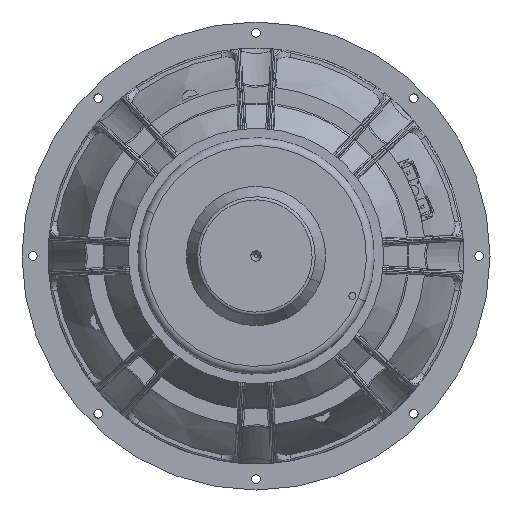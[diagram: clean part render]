
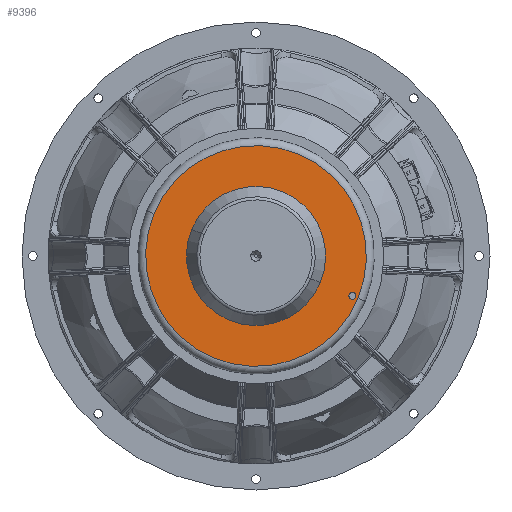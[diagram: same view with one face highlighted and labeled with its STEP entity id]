
A CAD part, front view. The second image highlights one B-rep face of the part: STEP entity #9396.
In plain terms, the highlighted planar face has unit normal (0, -1, 0).
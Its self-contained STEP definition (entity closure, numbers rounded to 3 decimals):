
#14 = PLANE ( 'NONE',  #47941 ) ;
#260 = DIRECTION ( 'NONE',  ( 0., -1., 0. ) ) ;
#2917 = CIRCLE ( 'NONE', #46403, 63.5 ) ;
#3577 = AXIS2_PLACEMENT_3D ( 'NONE', #27838, #46540, #8258 ) ;
#5705 = DIRECTION ( 'NONE',  ( -0.924, 0., 0.383 ) ) ;
#5851 = AXIS2_PLACEMENT_3D ( 'NONE', #18298, #61011, #56920 ) ;
#6073 = CARTESIAN_POINT ( 'NONE',  ( 36.955, -61.1, -15.307 ) ) ;
#7329 = EDGE_CURVE ( 'NONE', #35393, #62441, #49455, .T. ) ;
#7688 = DIRECTION ( 'NONE',  ( -0.924, 0., 0.383 ) ) ;
#7924 = EDGE_LOOP ( 'NONE', ( #29291, #10248 ) ) ;
#8258 = DIRECTION ( 'NONE',  ( -0.924, 0., 0.383 ) ) ;
#8320 = VERTEX_POINT ( 'NONE', #22885 ) ;
#9396 = ADVANCED_FACE ( 'NONE', ( #23737, #58254, #15558 ), #14, .F. ) ;
#9398 = EDGE_CURVE ( 'NONE', #54483, #8320, #24678, .T. ) ;
#9465 = CIRCLE ( 'NONE', #23560, 63.5 ) ;
#10248 = ORIENTED_EDGE ( 'NONE', *, *, #7329, .T. ) ;
#14288 = CARTESIAN_POINT ( 'NONE',  ( 0., -61.1, 0. ) ) ;
#14946 = CARTESIAN_POINT ( 'NONE',  ( 36.955, -61.1, -15.307 ) ) ;
#15420 = ORIENTED_EDGE ( 'NONE', *, *, #9398, .T. ) ;
#15558 = FACE_BOUND ( 'NONE', #33013, .T. ) ;
#18298 = CARTESIAN_POINT ( 'NONE',  ( 55.433, -61.1, -22.961 ) ) ;
#18957 = CARTESIAN_POINT ( 'NONE',  ( 56.198, -61.1, -21.113 ) ) ;
#19110 = CARTESIAN_POINT ( 'NONE',  ( -58.666, -61.1, 24.3 ) ) ;
#20247 = VERTEX_POINT ( 'NONE', #54669 ) ;
#20736 = CIRCLE ( 'NONE', #3577, 40. ) ;
#22885 = CARTESIAN_POINT ( 'NONE',  ( -36.955, -61.1, 15.307 ) ) ;
#23560 = AXIS2_PLACEMENT_3D ( 'NONE', #26334, #31739, #7688 ) ;
#23670 = DIRECTION ( 'NONE',  ( -0.924, 0., 0.383 ) ) ;
#23737 = FACE_OUTER_BOUND ( 'NONE', #52026, .T. ) ;
#24281 = CARTESIAN_POINT ( 'NONE',  ( 0., -61.1, 0. ) ) ;
#24678 = CIRCLE ( 'NONE', #54011, 40. ) ;
#26334 = CARTESIAN_POINT ( 'NONE',  ( 0., -61.1, 0. ) ) ;
#26529 = VERTEX_POINT ( 'NONE', #19110 ) ;
#27838 = CARTESIAN_POINT ( 'NONE',  ( 0., -61.1, 0. ) ) ;
#28180 = AXIS2_PLACEMENT_3D ( 'NONE', #37250, #56259, #36931 ) ;
#29291 = ORIENTED_EDGE ( 'NONE', *, *, #45777, .T. ) ;
#31739 = DIRECTION ( 'NONE',  ( 0., -1., 0. ) ) ;
#33013 = EDGE_LOOP ( 'NONE', ( #55466, #15420 ) ) ;
#33571 = DIRECTION ( 'NONE',  ( -0.924, 0., 0.383 ) ) ;
#35393 = VERTEX_POINT ( 'NONE', #50236 ) ;
#36931 = DIRECTION ( 'NONE',  ( -0.924, 0., 0.383 ) ) ;
#37250 = CARTESIAN_POINT ( 'NONE',  ( 55.433, -61.1, -22.961 ) ) ;
#38335 = DIRECTION ( 'NONE',  ( 0., 1., 0. ) ) ;
#41286 = EDGE_CURVE ( 'NONE', #26529, #20247, #9465, .T. ) ;
#45777 = EDGE_CURVE ( 'NONE', #62441, #35393, #51377, .T. ) ;
#46403 = AXIS2_PLACEMENT_3D ( 'NONE', #24281, #260, #23670 ) ;
#46540 = DIRECTION ( 'NONE',  ( 0., 1., 0. ) ) ;
#47941 = AXIS2_PLACEMENT_3D ( 'NONE', #14946, #38335, #5705 ) ;
#49455 = CIRCLE ( 'NONE', #28180, 2. ) ;
#50236 = CARTESIAN_POINT ( 'NONE',  ( 54.667, -61.1, -24.809 ) ) ;
#51377 = CIRCLE ( 'NONE', #5851, 2. ) ;
#52026 = EDGE_LOOP ( 'NONE', ( #56673, #61235 ) ) ;
#54011 = AXIS2_PLACEMENT_3D ( 'NONE', #14288, #57635, #33571 ) ;
#54483 = VERTEX_POINT ( 'NONE', #6073 ) ;
#54669 = CARTESIAN_POINT ( 'NONE',  ( 58.666, -61.1, -24.3 ) ) ;
#55466 = ORIENTED_EDGE ( 'NONE', *, *, #57584, .T. ) ;
#56259 = DIRECTION ( 'NONE',  ( 0., 1., 0. ) ) ;
#56673 = ORIENTED_EDGE ( 'NONE', *, *, #41286, .T. ) ;
#56920 = DIRECTION ( 'NONE',  ( -0.924, 0., 0.383 ) ) ;
#57584 = EDGE_CURVE ( 'NONE', #8320, #54483, #20736, .T. ) ;
#57635 = DIRECTION ( 'NONE',  ( 0., 1., 0. ) ) ;
#58254 = FACE_BOUND ( 'NONE', #7924, .T. ) ;
#60805 = EDGE_CURVE ( 'NONE', #20247, #26529, #2917, .T. ) ;
#61011 = DIRECTION ( 'NONE',  ( 0., 1., 0. ) ) ;
#61235 = ORIENTED_EDGE ( 'NONE', *, *, #60805, .T. ) ;
#62441 = VERTEX_POINT ( 'NONE', #18957 ) ;
